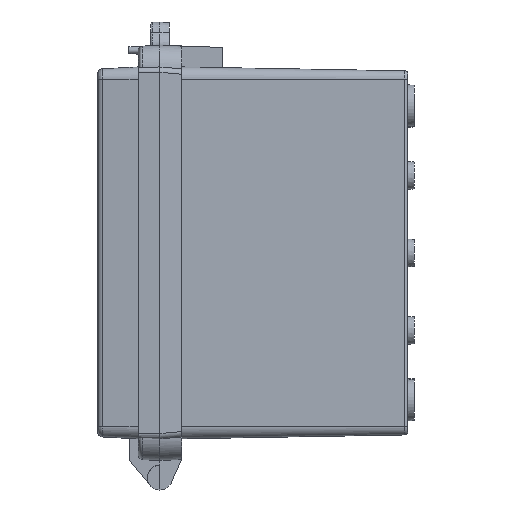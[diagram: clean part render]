
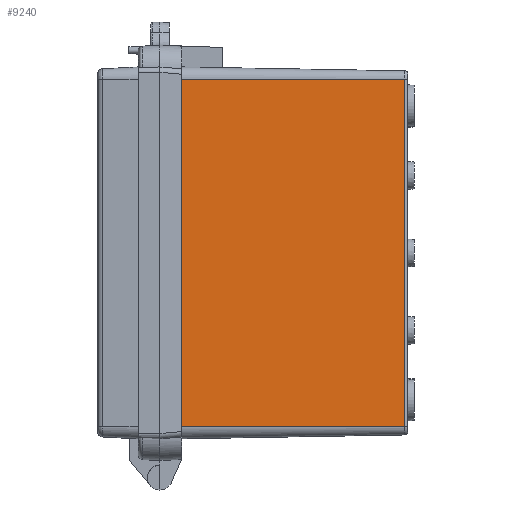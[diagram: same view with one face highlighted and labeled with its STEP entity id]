
A CAD part, left-side view. The second image highlights one B-rep face of the part: STEP entity #9240.
In plain terms, the highlighted planar face has unit normal (-1, -0.018, 0).
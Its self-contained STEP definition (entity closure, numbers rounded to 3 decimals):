
#24 = CARTESIAN_POINT ( 'NONE',  ( -85.07, -3., -56.07 ) ) ;
#101 = VECTOR ( 'NONE', #22213, 1000. ) ;
#165 = VERTEX_POINT ( 'NONE', #15792 ) ;
#215 = VECTOR ( 'NONE', #16153, 1000. ) ;
#497 = EDGE_CURVE ( 'NONE', #7167, #5384, #4862, .T. ) ;
#541 = VECTOR ( 'NONE', #14584, 1000. ) ;
#790 = VERTEX_POINT ( 'NONE', #5955 ) ;
#813 = DIRECTION ( 'NONE',  ( -0.017, 0.999, -0.035 ) ) ;
#918 = ORIENTED_EDGE ( 'NONE', *, *, #18808, .T. ) ;
#957 = CARTESIAN_POINT ( 'NONE',  ( -85., -7., 1.25 ) ) ;
#959 = CARTESIAN_POINT ( 'NONE',  ( -85., -7., -61.817 ) ) ;
#1103 = LINE ( 'NONE', #8264, #22889 ) ;
#1658 = LINE ( 'NONE', #17953, #13076 ) ;
#1823 = VERTEX_POINT ( 'NONE', #9402 ) ;
#1974 = EDGE_CURVE ( 'NONE', #11369, #18053, #15628, .T. ) ;
#2264 = ORIENTED_EDGE ( 'NONE', *, *, #3053, .T. ) ;
#2277 = DIRECTION ( 'NONE',  ( 0.017, -1., 0. ) ) ;
#2648 = LINE ( 'NONE', #18586, #15382 ) ;
#2868 = LINE ( 'NONE', #15752, #9948 ) ;
#2989 = DIRECTION ( 'NONE',  ( 0., 0., -1. ) ) ;
#3049 = CARTESIAN_POINT ( 'NONE',  ( -85.07, -3., 56.07 ) ) ;
#3053 = EDGE_CURVE ( 'NONE', #8448, #9637, #8693, .T. ) ;
#3122 = EDGE_CURVE ( 'NONE', #11905, #4741, #1658, .T. ) ;
#3320 = VECTOR ( 'NONE', #15738, 1000. ) ;
#3496 = CARTESIAN_POINT ( 'NONE',  ( -85., -7., -1.25 ) ) ;
#3531 = ORIENTED_EDGE ( 'NONE', *, *, #4047, .T. ) ;
#3952 = EDGE_CURVE ( 'NONE', #10788, #6640, #2648, .T. ) ;
#3983 = LINE ( 'NONE', #7614, #16988 ) ;
#4047 = EDGE_CURVE ( 'NONE', #4158, #11369, #1103, .T. ) ;
#4158 = VERTEX_POINT ( 'NONE', #24 ) ;
#4203 = ORIENTED_EDGE ( 'NONE', *, *, #15421, .T. ) ;
#4216 = ORIENTED_EDGE ( 'NONE', *, *, #3122, .T. ) ;
#4390 = DIRECTION ( 'NONE',  ( -1., -0.017, 0. ) ) ;
#4505 = VERTEX_POINT ( 'NONE', #13994 ) ;
#4608 = CARTESIAN_POINT ( 'NONE',  ( -85.07, -3., -41.11 ) ) ;
#4630 = DIRECTION ( 'NONE',  ( 0.017, -0.999, -0.035 ) ) ;
#4674 = CARTESIAN_POINT ( 'NONE',  ( -85.07, -3., -1.39 ) ) ;
#4741 = VERTEX_POINT ( 'NONE', #4674 ) ;
#4862 = LINE ( 'NONE', #21071, #7914 ) ;
#4986 = LINE ( 'NONE', #6379, #6618 ) ;
#5068 = CARTESIAN_POINT ( 'NONE',  ( -83.743, -79.017, -61.817 ) ) ;
#5318 = DIRECTION ( 'NONE',  ( -0.017, 0.999, -0.035 ) ) ;
#5384 = VERTEX_POINT ( 'NONE', #12747 ) ;
#5754 = EDGE_CURVE ( 'NONE', #4741, #8448, #4986, .T. ) ;
#5955 = CARTESIAN_POINT ( 'NONE',  ( -85.07, -3., 41.11 ) ) ;
#6379 = CARTESIAN_POINT ( 'NONE',  ( -85.07, -3., -61.817 ) ) ;
#6484 = DIRECTION ( 'NONE',  ( 0., 0., -1. ) ) ;
#6574 = CARTESIAN_POINT ( 'NONE',  ( -85., -7., -41.25 ) ) ;
#6618 = VECTOR ( 'NONE', #2989, 1000. ) ;
#6640 = VERTEX_POINT ( 'NONE', #957 ) ;
#6678 = LINE ( 'NONE', #13824, #215 ) ;
#6704 = CARTESIAN_POINT ( 'NONE',  ( -83.743, -79.017, 56.07 ) ) ;
#6838 = EDGE_LOOP ( 'NONE', ( #3531, #21207, #14247, #4203, #15329, #15311, #918, #19437, #20374, #22292, #4216, #7295, #2264, #17959, #9989, #11687 ) ) ;
#6917 = AXIS2_PLACEMENT_3D ( 'NONE', #11290, #4390, #2277 ) ;
#7167 = VERTEX_POINT ( 'NONE', #11855 ) ;
#7295 = ORIENTED_EDGE ( 'NONE', *, *, #5754, .T. ) ;
#7614 = CARTESIAN_POINT ( 'NONE',  ( -85., -7., -61.817 ) ) ;
#7681 = PLANE ( 'NONE',  #6917 ) ;
#7693 = CARTESIAN_POINT ( 'NONE',  ( -85.07, -3., 56.07 ) ) ;
#7888 = DIRECTION ( 'NONE',  ( 0., 0., -1. ) ) ;
#7914 = VECTOR ( 'NONE', #13654, 1000. ) ;
#8009 = LINE ( 'NONE', #11742, #11241 ) ;
#8264 = CARTESIAN_POINT ( 'NONE',  ( -85.07, -3., -56.07 ) ) ;
#8448 = VERTEX_POINT ( 'NONE', #4608 ) ;
#8693 = LINE ( 'NONE', #8805, #20978 ) ;
#8715 = VECTOR ( 'NONE', #5318, 1000. ) ;
#8805 = CARTESIAN_POINT ( 'NONE',  ( -85.057, -3.722, -41.136 ) ) ;
#8957 = LINE ( 'NONE', #18114, #541 ) ;
#9240 = ADVANCED_FACE ( 'NONE', ( #13182 ), #7681, .T. ) ;
#9402 = CARTESIAN_POINT ( 'NONE',  ( -85., -7., 43.75 ) ) ;
#9637 = VERTEX_POINT ( 'NONE', #6574 ) ;
#9948 = VECTOR ( 'NONE', #6484, 1000. ) ;
#9989 = ORIENTED_EDGE ( 'NONE', *, *, #497, .T. ) ;
#10732 = VERTEX_POINT ( 'NONE', #3049 ) ;
#10788 = VERTEX_POINT ( 'NONE', #20906 ) ;
#11241 = VECTOR ( 'NONE', #7888, 1000. ) ;
#11290 = CARTESIAN_POINT ( 'NONE',  ( -85.07, -3., -61.817 ) ) ;
#11369 = VERTEX_POINT ( 'NONE', #11401 ) ;
#11401 = CARTESIAN_POINT ( 'NONE',  ( -83.743, -79.017, -56.07 ) ) ;
#11656 = DIRECTION ( 'NONE',  ( -0.017, 1., 0. ) ) ;
#11687 = ORIENTED_EDGE ( 'NONE', *, *, #15664, .T. ) ;
#11742 = CARTESIAN_POINT ( 'NONE',  ( -85., -7., -61.817 ) ) ;
#11855 = CARTESIAN_POINT ( 'NONE',  ( -85., -7., -43.75 ) ) ;
#11905 = VERTEX_POINT ( 'NONE', #3496 ) ;
#12360 = EDGE_CURVE ( 'NONE', #6640, #11905, #8009, .T. ) ;
#12747 = CARTESIAN_POINT ( 'NONE',  ( -85.07, -3., -43.89 ) ) ;
#13076 = VECTOR ( 'NONE', #813, 1000. ) ;
#13182 = FACE_OUTER_BOUND ( 'NONE', #6838, .T. ) ;
#13654 = DIRECTION ( 'NONE',  ( -0.017, 0.999, -0.035 ) ) ;
#13824 = CARTESIAN_POINT ( 'NONE',  ( -85.07, -3., -61.817 ) ) ;
#13994 = CARTESIAN_POINT ( 'NONE',  ( -85.07, -3., 43.89 ) ) ;
#14247 = ORIENTED_EDGE ( 'NONE', *, *, #15947, .T. ) ;
#14584 = DIRECTION ( 'NONE',  ( 0., 0., -1. ) ) ;
#14647 = EDGE_CURVE ( 'NONE', #790, #10788, #6678, .T. ) ;
#14844 = LINE ( 'NONE', #7693, #15201 ) ;
#15201 = VECTOR ( 'NONE', #11656, 1000. ) ;
#15311 = ORIENTED_EDGE ( 'NONE', *, *, #22193, .T. ) ;
#15329 = ORIENTED_EDGE ( 'NONE', *, *, #22315, .T. ) ;
#15382 = VECTOR ( 'NONE', #4630, 1000. ) ;
#15421 = EDGE_CURVE ( 'NONE', #10732, #4505, #8957, .T. ) ;
#15628 = LINE ( 'NONE', #5068, #3320 ) ;
#15664 = EDGE_CURVE ( 'NONE', #5384, #4158, #2868, .T. ) ;
#15738 = DIRECTION ( 'NONE',  ( 0., 0., 1. ) ) ;
#15752 = CARTESIAN_POINT ( 'NONE',  ( -85.07, -3., -61.817 ) ) ;
#15792 = CARTESIAN_POINT ( 'NONE',  ( -85., -7., 41.25 ) ) ;
#15947 = EDGE_CURVE ( 'NONE', #18053, #10732, #14844, .T. ) ;
#16060 = CARTESIAN_POINT ( 'NONE',  ( -85.005, -6.686, 43.761 ) ) ;
#16153 = DIRECTION ( 'NONE',  ( 0., 0., -1. ) ) ;
#16182 = DIRECTION ( 'NONE',  ( 0.017, -0.999, -0.035 ) ) ;
#16521 = DIRECTION ( 'NONE',  ( 0., 0., -1. ) ) ;
#16830 = DIRECTION ( 'NONE',  ( 0.017, -1., 0. ) ) ;
#16916 = LINE ( 'NONE', #959, #101 ) ;
#16988 = VECTOR ( 'NONE', #16521, 1000. ) ;
#17373 = VECTOR ( 'NONE', #17722, 1000. ) ;
#17722 = DIRECTION ( 'NONE',  ( 0.017, -0.999, -0.035 ) ) ;
#17953 = CARTESIAN_POINT ( 'NONE',  ( -85.107, -0.893, -1.463 ) ) ;
#17959 = ORIENTED_EDGE ( 'NONE', *, *, #22456, .T. ) ;
#18053 = VERTEX_POINT ( 'NONE', #6704 ) ;
#18114 = CARTESIAN_POINT ( 'NONE',  ( -85.07, -3., -61.817 ) ) ;
#18586 = CARTESIAN_POINT ( 'NONE',  ( -85.031, -5.204, 1.313 ) ) ;
#18808 = EDGE_CURVE ( 'NONE', #165, #790, #23181, .T. ) ;
#19437 = ORIENTED_EDGE ( 'NONE', *, *, #14647, .T. ) ;
#19970 = CARTESIAN_POINT ( 'NONE',  ( -85.132, 0.589, 40.985 ) ) ;
#20374 = ORIENTED_EDGE ( 'NONE', *, *, #3952, .T. ) ;
#20906 = CARTESIAN_POINT ( 'NONE',  ( -85.07, -3., 1.39 ) ) ;
#20978 = VECTOR ( 'NONE', #16182, 1000. ) ;
#21071 = CARTESIAN_POINT ( 'NONE',  ( -85.081, -2.375, -43.912 ) ) ;
#21207 = ORIENTED_EDGE ( 'NONE', *, *, #1974, .T. ) ;
#21368 = LINE ( 'NONE', #16060, #17373 ) ;
#22193 = EDGE_CURVE ( 'NONE', #1823, #165, #16916, .T. ) ;
#22213 = DIRECTION ( 'NONE',  ( 0., 0., -1. ) ) ;
#22292 = ORIENTED_EDGE ( 'NONE', *, *, #12360, .T. ) ;
#22315 = EDGE_CURVE ( 'NONE', #4505, #1823, #21368, .T. ) ;
#22456 = EDGE_CURVE ( 'NONE', #9637, #7167, #3983, .T. ) ;
#22889 = VECTOR ( 'NONE', #16830, 1000. ) ;
#23181 = LINE ( 'NONE', #19970, #8715 ) ;
